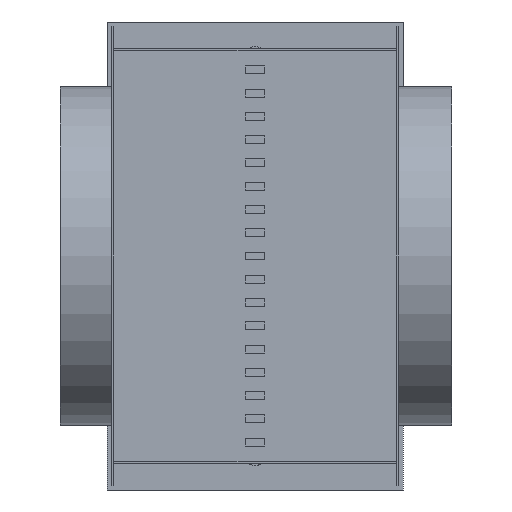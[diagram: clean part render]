
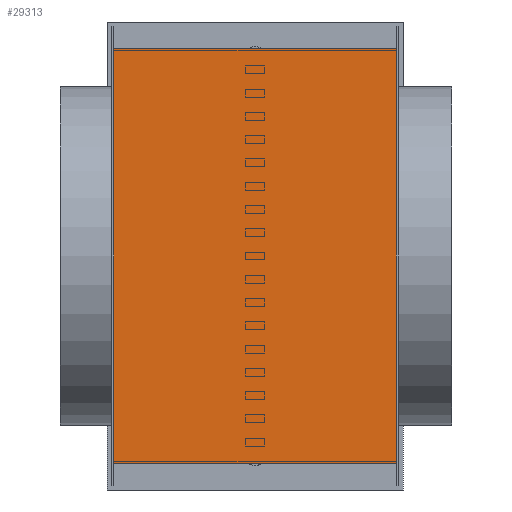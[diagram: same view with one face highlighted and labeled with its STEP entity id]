
A CAD part, left-side view. The second image highlights one B-rep face of the part: STEP entity #29313.
In plain terms, the highlighted planar face has unit normal (-1, 0, 0).
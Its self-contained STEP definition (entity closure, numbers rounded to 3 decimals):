
#3935=LINE('',#45734,#7875);
#3936=LINE('',#45736,#7876);
#3937=LINE('',#45738,#7877);
#3938=LINE('',#45739,#7878);
#7875=VECTOR('',#37366,10.);
#7876=VECTOR('',#37367,10.);
#7877=VECTOR('',#37368,10.);
#7878=VECTOR('',#37369,10.);
#9149=PLANE('',#30699);
#11124=FACE_OUTER_BOUND('',#13049,.T.);
#13049=EDGE_LOOP('',(#27925,#27926,#27927,#27928));
#15887=VERTEX_POINT('',#45732);
#15888=VERTEX_POINT('',#45733);
#15889=VERTEX_POINT('',#45735);
#15890=VERTEX_POINT('',#45737);
#19915=EDGE_CURVE('',#15887,#15888,#3935,.T.);
#19916=EDGE_CURVE('',#15887,#15889,#3936,.T.);
#19917=EDGE_CURVE('',#15889,#15890,#3937,.T.);
#19918=EDGE_CURVE('',#15890,#15888,#3938,.T.);
#27925=ORIENTED_EDGE('',*,*,#19915,.F.);
#27926=ORIENTED_EDGE('',*,*,#19916,.T.);
#27927=ORIENTED_EDGE('',*,*,#19917,.T.);
#27928=ORIENTED_EDGE('',*,*,#19918,.T.);
#29313=ADVANCED_FACE('',(#11124),#9149,.T.);
#30699=AXIS2_PLACEMENT_3D('',#45731,#37364,#37365);
#37364=DIRECTION('center_axis',(-1.,0.,0.));
#37365=DIRECTION('ref_axis',(0.,0.,1.));
#37366=DIRECTION('',(0.,-1.,0.));
#37367=DIRECTION('',(0.,0.,-1.));
#37368=DIRECTION('',(0.,-1.,0.));
#37369=DIRECTION('',(0.,0.,1.));
#45731=CARTESIAN_POINT('Origin',(-207.45,0.,-216.95));
#45732=CARTESIAN_POINT('',(-207.45,148.,216.95));
#45733=CARTESIAN_POINT('',(-207.45,-148.,216.95));
#45734=CARTESIAN_POINT('',(-207.45,0.,216.95));
#45735=CARTESIAN_POINT('',(-207.45,148.,-216.95));
#45736=CARTESIAN_POINT('',(-207.45,148.,-108.475));
#45737=CARTESIAN_POINT('',(-207.45,-148.,-216.95));
#45738=CARTESIAN_POINT('',(-207.45,0.,-216.95));
#45739=CARTESIAN_POINT('',(-207.45,-148.,-108.475));
